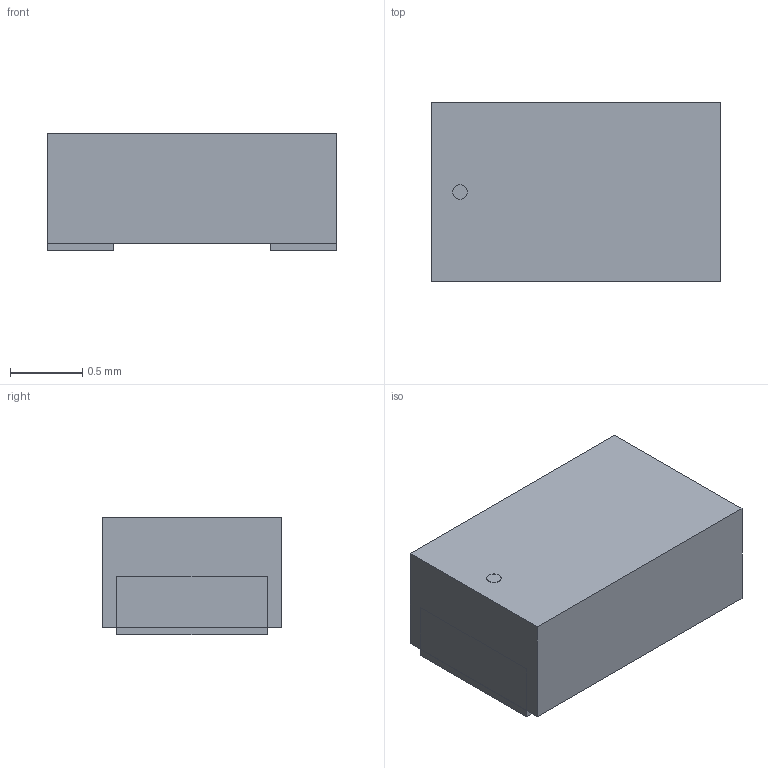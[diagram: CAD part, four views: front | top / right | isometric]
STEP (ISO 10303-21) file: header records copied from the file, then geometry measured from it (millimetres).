
FILE_DESCRIPTION(('STEP AP214'),'1');
FILE_NAME('LED_LTST-C171_LTO','2025-02-17T02:46:50',(''),(''),'','','');
FILE_SCHEMA(('AUTOMOTIVE_DESIGN'));
Length unit declared in the file: millimetre
Products named in the file (1): product
Bounding box: 2.01 x 1.24 x 0.81 mm (x, y, z)
Volume: 2 mm3; surface area: 13.7 mm2
Topology: 4 solids, 4 shells, 25 faces, 47 edges, 30 vertices
Faces by surface type: plane 24, cylinder 1
Full cylindrical faces by diameter (mm): 0.1 x1
Entity records: 785 total; most frequent: DIRECTION 106, ORIENTED_EDGE 100, CARTESIAN_POINT 63, EDGE_CURVE 50, LINE 48, VECTOR 48, VERTEX_POINT 34, AXIS2_PLACEMENT_3D 29
